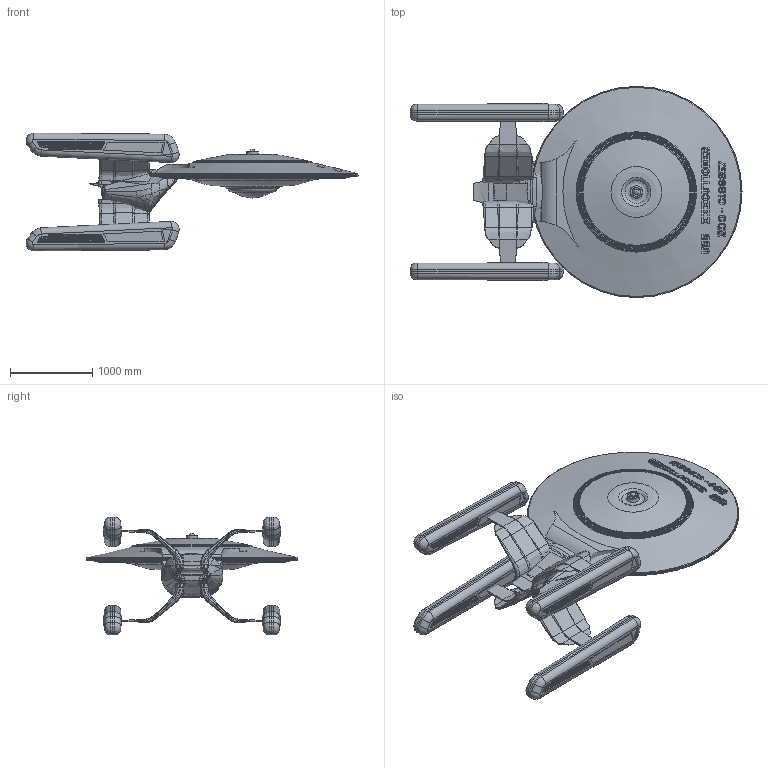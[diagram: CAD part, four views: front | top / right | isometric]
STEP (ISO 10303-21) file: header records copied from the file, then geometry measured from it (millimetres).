
FILE_DESCRIPTION((' '),'2;1');
FILE_NAME('C:\Users\oke12785\Desktop\USS Executioner.stp','2014-02-20T13:10:18',(' '),(' '),' ','ACIS',' ');
FILE_SCHEMA(('CONFIG_CONTROL_DESIGN'));
Length unit declared in the file: inch
Products named in the file (12): C:\Users\oke12785\Desktop\USS Executioner.stp; Body1; Body2; Body3; Body4; Body5; Body6; Body7; Body8; Body9; Body10; Body11
Assembly tree (11 placements, depth 2):
  C:\Users\oke12785\Desktop\USS Executioner.stp
    Body1
    Body2
    Body3
    Body4
    Body5
    Body6
    Body7
    Body8
    Body9
    Body10
    Body11
Bounding box: 4028.24 x 2563.53 x 1430.63 mm (x, y, z)
Volume: 1634610653.5 mm3; surface area: 26092874.6 mm2
Topology: 36 solids, 36 shells, 1644 faces, 4045 edges, 2511 vertices
Faces by surface type: bspline 770, plane 666, cone 105, cylinder 96, torus 7
Full cylindrical faces by diameter (mm): 1320.52 x1, 1348.536 x1, 2295.603 x1, 2322.206 x1, 2344.058 x1, 2554.977 x1
Entity records: 68707 total; most frequent: CARTESIAN_POINT 32398, ORIENTED_EDGE 7912, DIRECTION 5318, EDGE_CURVE 3956, VERTEX_POINT 2507, VECTOR 2468, LINE 2468, EDGE_LOOP 1781
